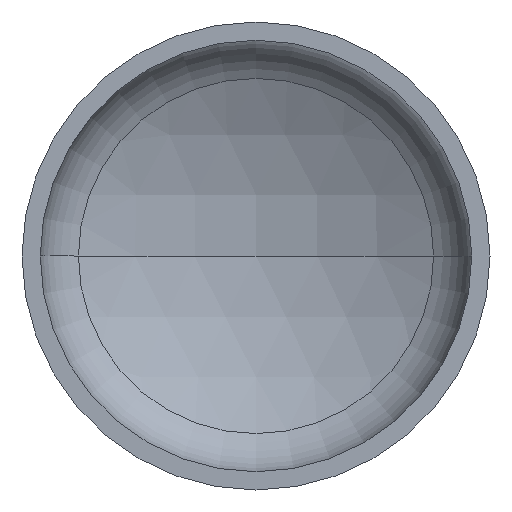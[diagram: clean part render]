
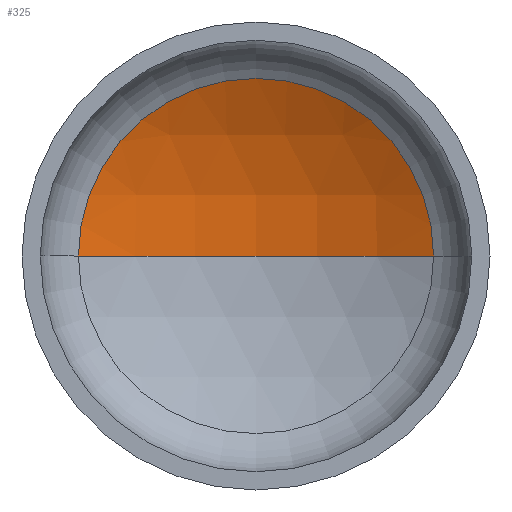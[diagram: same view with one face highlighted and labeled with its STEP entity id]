
A CAD part, front view. The second image highlights one B-rep face of the part: STEP entity #325.
In plain terms, the highlighted spherical face has radius 1600 mm.
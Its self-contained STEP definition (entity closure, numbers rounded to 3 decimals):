
#15 = EDGE_LOOP ( 'NONE', ( #102, #95, #57 ) ) ;
#20 = AXIS2_PLACEMENT_3D ( 'NONE', #144, #170, #397 ) ;
#26 = DIRECTION ( 'NONE',  ( -1., 0., 0. ) ) ;
#34 = DIRECTION ( 'NONE',  ( 0., 0., -1. ) ) ;
#56 = VERTEX_POINT ( 'NONE', #239 ) ;
#57 = ORIENTED_EDGE ( 'NONE', *, *, #137, .T. ) ;
#58 = CARTESIAN_POINT ( 'NONE',  ( -759.07, 392.893, 0. ) ) ;
#59 = AXIS2_PLACEMENT_3D ( 'NONE', #409, #368, #197 ) ;
#70 = AXIS2_PLACEMENT_3D ( 'NONE', #287, #34, #26 ) ;
#73 = AXIS2_PLACEMENT_3D ( 'NONE', #98, #292, #151 ) ;
#95 = ORIENTED_EDGE ( 'NONE', *, *, #138, .T. ) ;
#98 = CARTESIAN_POINT ( 'NONE',  ( 0., 392.893, 0. ) ) ;
#99 = VERTEX_POINT ( 'NONE', #262 ) ;
#102 = ORIENTED_EDGE ( 'NONE', *, *, #140, .F. ) ;
#136 = SPHERICAL_SURFACE ( 'NONE', #20, 1600. ) ;
#137 = EDGE_CURVE ( 'NONE', #99, #259, #163, .T. ) ;
#138 = EDGE_CURVE ( 'NONE', #56, #99, #408, .T. ) ;
#140 = EDGE_CURVE ( 'NONE', #56, #259, #358, .T. ) ;
#144 = CARTESIAN_POINT ( 'NONE',  ( 0., -1015.586, 0. ) ) ;
#151 = DIRECTION ( 'NONE',  ( 1., 0., 0. ) ) ;
#163 = CIRCLE ( 'NONE', #73, 759.07 ) ;
#170 = DIRECTION ( 'NONE',  ( 0., 0., -1. ) ) ;
#197 = DIRECTION ( 'NONE',  ( 1., 0., 0. ) ) ;
#208 = FACE_OUTER_BOUND ( 'NONE', #15, .T. ) ;
#239 = CARTESIAN_POINT ( 'NONE',  ( 0., 584.414, 0. ) ) ;
#259 = VERTEX_POINT ( 'NONE', #58 ) ;
#262 = CARTESIAN_POINT ( 'NONE',  ( 759.07, 392.893, 0. ) ) ;
#287 = CARTESIAN_POINT ( 'NONE',  ( 0., -1015.586, 0. ) ) ;
#292 = DIRECTION ( 'NONE',  ( 0., -1., 0. ) ) ;
#325 = ADVANCED_FACE ( 'NONE', ( #208 ), #136, .F. ) ;
#358 = CIRCLE ( 'NONE', #59, 1600. ) ;
#368 = DIRECTION ( 'NONE',  ( 0., 0., 1. ) ) ;
#397 = DIRECTION ( 'NONE',  ( -1., 0., 0. ) ) ;
#408 = CIRCLE ( 'NONE', #70, 1600. ) ;
#409 = CARTESIAN_POINT ( 'NONE',  ( 0., -1015.586, 0. ) ) ;
